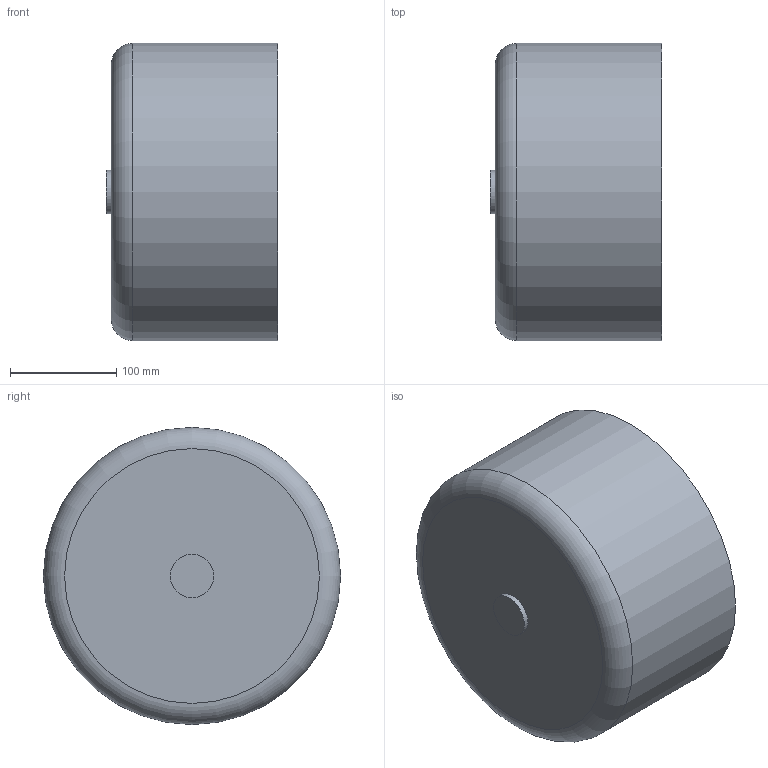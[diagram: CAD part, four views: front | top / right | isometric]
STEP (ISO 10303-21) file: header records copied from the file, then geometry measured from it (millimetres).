
FILE_DESCRIPTION(/* description */ ('Unknown'),/* implementation_level */ '2;1');
FILE_NAME(/* name */ 'CAP280G',/* time_stamp */ '2022-04-02T11:04:36+02:00',/* author */ ('Unknown'),/* organization */ ('Unknown'),/* preprocessor_version */ 'ST-DEVELOPER v18.1',/* originating_system */ 'Solid Edge',/* authorisation */ 'Unknown');
FILE_SCHEMA (('AUTOMOTIVE_DESIGN {1 0 10303 214 3 1 1}'));
Length unit declared in the file: millimetre
Products named in the file (1): CAP280G
Bounding box: 162 x 280 x 280 mm (x, y, z)
Volume: 5590608.5 mm3; surface area: 324309.1 mm2
Topology: 1 solids, 1 shells, 11 faces, 17 edges, 10 vertices
Faces by surface type: plane 4, cylinder 4, torus 2, cone 1
Full cylindrical faces by diameter (mm): 41 x1, 203.4 x1, 217 x1, 280 x1
Entity records: 244 total; most frequent: DIRECTION 44, CARTESIAN_POINT 32, AXIS2_PLACEMENT_3D 22, ORIENTED_EDGE 20, EDGE_LOOP 20, FACE_BOUND 20, ADVANCED_FACE 11, EDGE_CURVE 10
